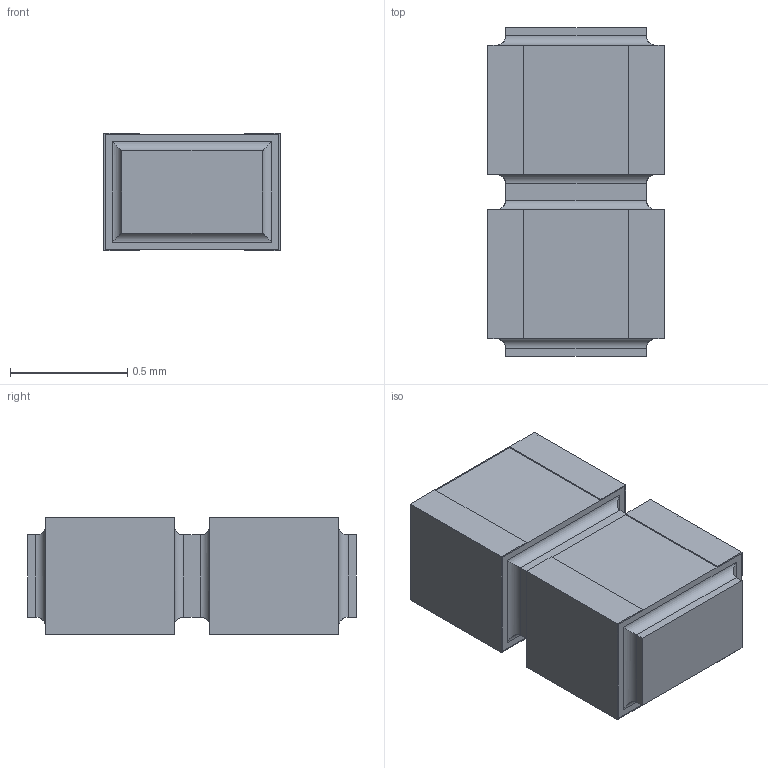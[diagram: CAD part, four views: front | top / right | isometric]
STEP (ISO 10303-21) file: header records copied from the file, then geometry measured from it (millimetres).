
FILE_DESCRIPTION(/* description */ (''),/* implementation_level */ '2;1');
FILE_NAME(/* name */ 'S:\DOCUMENT\AUTOCAD\3D_Modèles\10_3D-pour-VISHAY-COM\PRA\PRA073\PRA073-I2_à_I8\10_IGES\PRA073I2_B-or-N-or-G.stp',/* time_stamp */ '2017-12-21T10:46:08+01:00',/* author */ ('dparmentier'),/* organization */ ('unknown'),/* preprocessor_version */ 'ST-DEVELOPER v17',/* originating_system */ 'Autodesk Inventor 2018',/* authorisation */ '');
FILE_SCHEMA (('AUTOMOTIVE_DESIGN { 1 0 10303 214 3 1 1 }'));
Length unit declared in the file: millimetre
Products named in the file (1): PRA073I2_B-or-N-or-G
Bounding box: 0.75 x 1.4 x 0.5 mm (x, y, z)
Volume: 0.5 mm3; surface area: 7.7 mm2
Topology: 5 solids, 5 shells, 82 faces, 188 edges, 120 vertices
Faces by surface type: plane 66, cylinder 16
Entity records: 2309 total; most frequent: CARTESIAN_POINT 391, ORIENTED_EDGE 376, DIRECTION 370, EDGE_CURVE 188, LINE 172, VECTOR 172, VERTEX_POINT 120, AXIS2_PLACEMENT_3D 99
